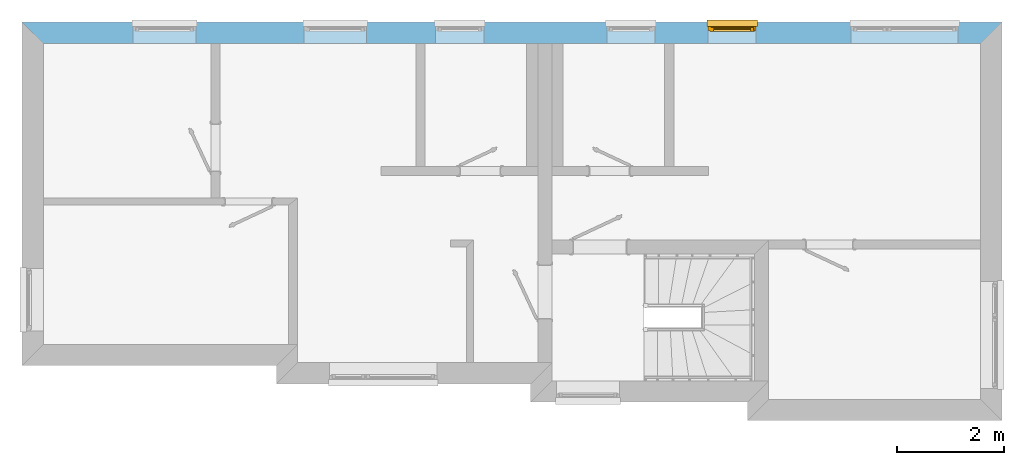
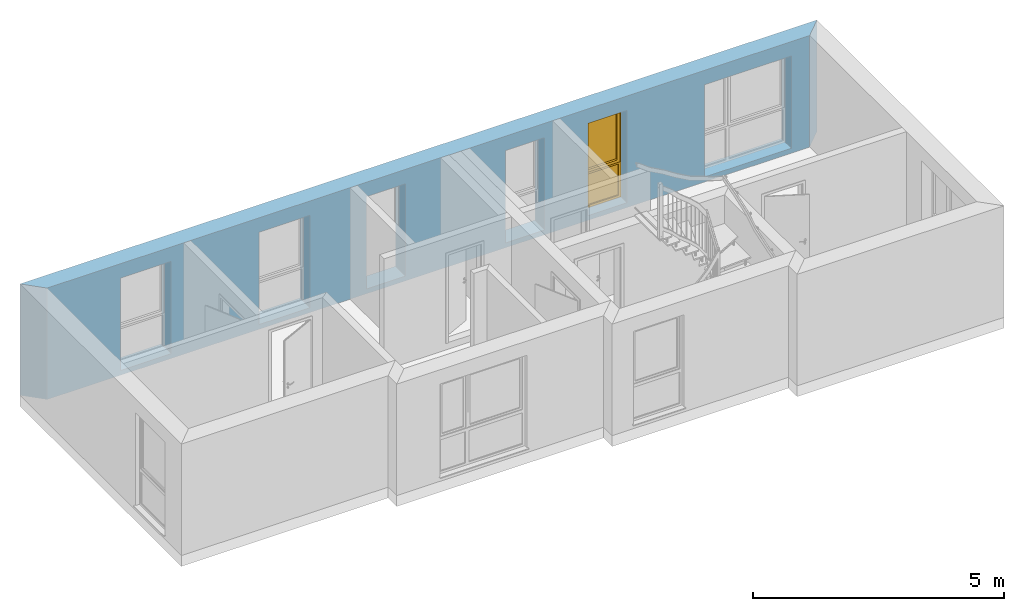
# One storey, part 12 of 16: 1 window, 6 openings, plus 1 element that does not belong to this part.
"""IFC2X3 building model written with IfcOpenShell, lengths in millimetres."""

from ifc_helpers import new_model, si_unit, frame, origin_with_axes, place, context, project, spatial, faceted_brep, material, layer, layer_set, layer_usage, type_object, element, fill, save


model = new_model("IFC2X3")

# Units and contexts
model_context = context("Model", 3, world=origin_with_axes())
ifc_project = project(units=[si_unit("LENGTHUNIT", "METRE", prefix="MILLI")], contexts=[model_context])

# Site, building, storey
site_placement = place(None, origin_with_axes())
site = spatial("IfcSite", under=ifc_project, at=site_placement, Name="Site", CompositionType="ELEMENT")
building_placement = place(site_placement, origin_with_axes())
building = spatial("IfcBuilding", under=site, at=building_placement, Name="?", CompositionType="ELEMENT")
storey_placement = place(building_placement, frame((0.0, 0.0, 2969.0), z_axis=(0.0, 0.0, 1.0), x_axis=(1.0, 0.0, 0.0)))
storey = spatial("IfcBuildingStorey", under=building, at=storey_placement, Name="Obergeschoß 1", CompositionType="ELEMENT", Elevation=2969.0)

# Wall, openings, window
ifc_material = material(Name="Material_AW")
ifc_layer = layer(ifc_material, 395.0, ventilated=False)
ifc_layer_set = layer_set([ifc_layer], Name="MaterialLayerSet_AW")
ifc_layer_usage = layer_usage(ifc_layer_set, "AXIS2", "NEGATIVE", 197.5)
wall_placement = place(storey_placement, frame((197.5, -197.5, 0.0), z_axis=(0.0, 0.0, 1.0), x_axis=(1.0, 0.0, 0.0)))
wall = element("IfcWall", 1, at=wall_placement, inside=storey, material=ifc_layer_usage, Name="AW-11", context=model_context, shape_type="Brep", body=[
    faceted_brep([(17707.5008600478, -197.5, 0.0), (17707.5008600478, -197.5, 2707.0), (197.5, -197.5, 2707.0), (197.5, -197.5, 0.0), (18102.5001275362, 197.499999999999, 0.0), (18102.5001275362, 197.499999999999, 2707.0), (17707.5008600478, -197.500000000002, 2707.0), (17707.5008600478, -197.500000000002, 0.0), (-197.500233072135, 197.5, 0.0), (-197.500233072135, 197.5, 2707.0), (18102.5001275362, 197.5, 2707.0), (18102.5001275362, 197.5, 0.0), (197.5, -197.5, 0.0), (197.5, -197.5, 2707.0), (-197.500233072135, 197.5, 2707.0), (-197.500233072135, 197.5, 0.0), (197.5, -197.5, 0.0), (-197.500233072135, 197.5, 0.0), (18102.5001275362, 197.5, 0.0), (17707.5008600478, -197.5, 0.0), (-197.500233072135, 197.5, 2707.0), (197.5, -197.5, 2707.0), (17707.5008600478, -197.5, 2707.0), (18102.5001275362, 197.5, 2707.0)], [[[0, 1, 2, 3]], [[4, 5, 6, 7]], [[8, 9, 10, 11]], [[12, 13, 14, 15]], [[16, 17, 18, 19]], [[20, 21, 22, 23]]]),
])
opening_1_placement = place(wall_placement, frame((5067.5, 0.0, 116.0), z_axis=(0.0, 0.0, 1.0), x_axis=(1.0, 0.0, 0.0)))
element("IfcOpeningElement", 2, at=opening_1_placement, cuts=wall, Name="AW-11|FE11", context=model_context, shape_type="Brep", body=[
    faceted_brep([(0.0, 207.5, 0.0), (0.0, 207.5, 2244.0), (1170.0, 207.5, 2244.0), (1170.0, 207.5, 0.0), (0.0, -207.5, 0.0), (0.0, -207.5, 2244.0), (0.0, 207.5, 2244.0), (0.0, 207.5, 0.0), (1170.0, -207.5, 0.0), (0.0, -207.5, 0.0), (0.0, 207.5, 0.0), (1170.0, 207.5, 0.0), (1170.0, -207.5, 2244.0), (1170.0, -207.5, 0.0), (1170.0, 207.5, 0.0), (1170.0, 207.5, 2244.0), (0.0, -207.5, 2244.0), (1170.0, -207.5, 2244.0), (1170.0, 207.5, 2244.0), (0.0, 207.5, 2244.0), (0.0, -207.5, 0.0), (1170.0, -207.5, 0.0), (1170.0, -207.5, 2244.0), (0.0, -207.5, 2244.0)], [[[0, 1, 2, 3]], [[4, 5, 6, 7]], [[8, 9, 10, 11]], [[12, 13, 14, 15]], [[16, 17, 18, 19]], [[20, 21, 22, 23]]]),
])
opening_2_placement = place(wall_placement, frame((10723.5, 0.0, 116.0), z_axis=(0.0, 0.0, 1.0), x_axis=(1.0, 0.0, 0.0)))
element("IfcOpeningElement", 3, at=opening_2_placement, cuts=wall, Name="AW-11|FE13", context=model_context, shape_type="Brep", body=[
    faceted_brep([(0.0, 207.5, 0.0), (0.0, 207.5, 2244.0), (900.0, 207.5, 2244.0), (900.0, 207.5, 0.0), (0.0, -207.5, 0.0), (0.0, -207.5, 2244.0), (0.0, 207.5, 2244.0), (0.0, 207.5, 0.0), (900.0, -207.5, 0.0), (0.0, -207.5, 0.0), (0.0, 207.5, 0.0), (900.0, 207.5, 0.0), (900.0, -207.5, 2244.0), (900.0, -207.5, 0.0), (900.0, 207.5, 0.0), (900.0, 207.5, 2244.0), (0.0, -207.5, 2244.0), (900.0, -207.5, 2244.0), (900.0, 207.5, 2244.0), (0.0, 207.5, 2244.0), (0.0, -207.5, 0.0), (900.0, -207.5, 0.0), (900.0, -207.5, 2244.0), (0.0, -207.5, 2244.0)], [[[0, 1, 2, 3]], [[4, 5, 6, 7]], [[8, 9, 10, 11]], [[12, 13, 14, 15]], [[16, 17, 18, 19]], [[20, 21, 22, 23]]]),
])
opening_3_placement = place(wall_placement, frame((12613.5, 0.0, 116.0), z_axis=(0.0, 0.0, 1.0), x_axis=(1.0, 0.0, 0.0)))
opening_3 = element("IfcOpeningElement", 4, at=opening_3_placement, cuts=wall, Name="AW-11|FE14", context=model_context, shape_type="Brep", body=[
    faceted_brep([(0.0, 207.5, 0.0), (0.0, 207.5, 2244.0), (900.0, 207.5, 2244.0), (900.0, 207.5, 0.0), (0.0, -207.5, 0.0), (0.0, -207.5, 2244.0), (0.0, 207.5, 2244.0), (0.0, 207.5, 0.0), (900.0, -207.5, 0.0), (0.0, -207.5, 0.0), (0.0, 207.5, 0.0), (900.0, 207.5, 0.0), (900.0, -207.5, 2244.0), (900.0, -207.5, 0.0), (900.0, 207.5, 0.0), (900.0, 207.5, 2244.0), (0.0, -207.5, 2244.0), (900.0, -207.5, 2244.0), (900.0, 207.5, 2244.0), (0.0, 207.5, 2244.0), (0.0, -207.5, 0.0), (900.0, -207.5, 0.0), (900.0, -207.5, 2244.0), (0.0, -207.5, 2244.0)], [[[0, 1, 2, 3]], [[4, 5, 6, 7]], [[8, 9, 10, 11]], [[12, 13, 14, 15]], [[16, 17, 18, 19]], [[20, 21, 22, 23]]]),
])
opening_4_placement = place(wall_placement, frame((15287.5, 0.0, 116.0), z_axis=(0.0, 0.0, 1.0), x_axis=(1.0, 0.0, 0.0)))
element("IfcOpeningElement", 5, at=opening_4_placement, cuts=wall, Name="AW-11|FE15", context=model_context, shape_type="Brep", body=[
    faceted_brep([(0.0, 207.5, 0.0), (0.0, 207.5, 2244.0), (2000.0, 207.5, 2244.0), (2000.0, 207.5, 0.0), (0.0, -207.5, 0.0), (0.0, -207.5, 2244.0), (0.0, 207.5, 2244.0), (0.0, 207.5, 0.0), (2000.0, -207.5, 0.0), (0.0, -207.5, 0.0), (0.0, 207.5, 0.0), (2000.0, 207.5, 0.0), (2000.0, -207.5, 2244.0), (2000.0, -207.5, 0.0), (2000.0, 207.5, 0.0), (2000.0, 207.5, 2244.0), (0.0, -207.5, 2244.0), (2000.0, -207.5, 2244.0), (2000.0, 207.5, 2244.0), (0.0, 207.5, 2244.0), (0.0, -207.5, 0.0), (2000.0, -207.5, 0.0), (2000.0, -207.5, 2244.0), (0.0, -207.5, 2244.0)], [[[0, 1, 2, 3]], [[4, 5, 6, 7]], [[8, 9, 10, 11]], [[12, 13, 14, 15]], [[16, 17, 18, 19]], [[20, 21, 22, 23]]]),
])
opening_5_placement = place(wall_placement, frame((7527.5, 0.0, 116.0), z_axis=(0.0, 0.0, 1.0), x_axis=(1.0, 0.0, 0.0)))
element("IfcOpeningElement", 6, at=opening_5_placement, cuts=wall, Name="AW-11|FE12", context=model_context, shape_type="Brep", body=[
    faceted_brep([(0.0, 207.5, 0.0), (0.0, 207.5, 2244.0), (900.0, 207.5, 2244.0), (900.0, 207.5, 0.0), (0.0, -207.5, 0.0), (0.0, -207.5, 2244.0), (0.0, 207.5, 2244.0), (0.0, 207.5, 0.0), (900.0, -207.5, 0.0), (0.0, -207.5, 0.0), (0.0, 207.5, 0.0), (900.0, 207.5, 0.0), (900.0, -207.5, 2244.0), (900.0, -207.5, 0.0), (900.0, 207.5, 0.0), (900.0, 207.5, 2244.0), (0.0, -207.5, 2244.0), (900.0, -207.5, 2244.0), (900.0, 207.5, 2244.0), (0.0, 207.5, 2244.0), (0.0, -207.5, 0.0), (900.0, -207.5, 0.0), (900.0, -207.5, 2244.0), (0.0, -207.5, 2244.0)], [[[0, 1, 2, 3]], [[4, 5, 6, 7]], [[8, 9, 10, 11]], [[12, 13, 14, 15]], [[16, 17, 18, 19]], [[20, 21, 22, 23]]]),
])
opening_6_placement = place(wall_placement, frame((1877.5, 0.0, 116.0), z_axis=(0.0, 0.0, 1.0), x_axis=(1.0, 0.0, 0.0)))
element("IfcOpeningElement", 7, at=opening_6_placement, cuts=wall, Name="AW-11|FE10", context=model_context, shape_type="Brep", body=[
    faceted_brep([(0.0, 207.5, 0.0), (0.0, 207.5, 2244.0), (1170.0, 207.5, 2244.0), (1170.0, 207.5, 0.0), (0.0, -207.5, 0.0), (0.0, -207.5, 2244.0), (0.0, 207.5, 2244.0), (0.0, 207.5, 0.0), (1170.0, -207.5, 0.0), (0.0, -207.5, 0.0), (0.0, 207.5, 0.0), (1170.0, 207.5, 0.0), (1170.0, -207.5, 2244.0), (1170.0, -207.5, 0.0), (1170.0, 207.5, 0.0), (1170.0, 207.5, 2244.0), (0.0, -207.5, 2244.0), (1170.0, -207.5, 2244.0), (1170.0, 207.5, 2244.0), (0.0, 207.5, 2244.0), (0.0, -207.5, 0.0), (1170.0, -207.5, 0.0), (1170.0, -207.5, 2244.0), (0.0, -207.5, 2244.0)], [[[0, 1, 2, 3]], [[4, 5, 6, 7]], [[8, 9, 10, 11]], [[12, 13, 14, 15]], [[16, 17, 18, 19]], [[20, 21, 22, 23]]]),
])
window_style = type_object("IfcWindowStyle", Name="FE14", ConstructionType="NOTDEFINED", OperationType="DOUBLE_PANEL_HORIZONTAL", ParameterTakesPrecedence=True, Sizeable=False)
window_placement = place(opening_3_placement, frame((900.0, 77.5, 0.0), z_axis=(0.0, 0.0, 1.0), x_axis=(-1.0, 0.0, 0.0)))
window = element("IfcWindow", 8, at=window_placement, inside=storey, type_object=window_style, Name="FE14", OverallHeight=2244.0, OverallWidth=900.0, context=model_context, shape_type="Brep", body=[
    faceted_brep([(0.0, -36.0, 0.0), (900.0, -36.0, 0.0), (885.0, -36.0, 15.0), (15.0, -36.0, 15.0), (15.0, 36.0, 15.0), (885.0, 36.0, 15.0), (900.0, 36.0, 0.0), (0.0, 36.0, 0.0), (0.0, 36.0, 0.0), (900.0, 36.0, 0.0), (900.0, -36.0, 0.0), (0.0, -36.0, 0.0), (900.0, -36.0, 0.0), (900.0, -36.0, 2244.0), (885.0, -36.0, 2229.0), (885.0, -36.0, 15.0), (885.0, 36.0, 15.00048828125), (885.0, 36.0, 2229.00048828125), (900.0, 36.0, 2244.00048828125), (900.0, 36.0, 0.00048828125), (900.0, 36.0, 0.0), (900.0, 36.0, 2244.0), (900.0, -36.0, 2244.0), (900.0, -36.0, 0.0), (900.0, -36.0, 2244.0), (0.0, -36.0, 2244.0), (15.0, -36.0, 2229.0), (885.0, -36.0, 2229.0), (885.0, 36.0, 2229.0), (15.0, 36.0, 2229.0), (0.0, 36.0, 2244.0), (900.0, 36.0, 2244.0), (900.0, 36.0, 2244.0), (0.0, 36.0, 2244.0), (0.0, -36.0, 2244.0), (900.0, -36.0, 2244.0), (0.0, -36.0, 2244.0), (0.0, -36.0, 0.0), (15.0, -36.0, 15.0), (15.0, -36.0, 2229.0), (15.0, 36.0, 2229.0), (15.0, 36.0, 15.0), (0.0, 36.0, 0.0), (0.0, 36.0, 2244.0), (0.0, 36.0, 2244.0), (0.0, 36.0, 0.0), (0.0, -36.0, 0.0), (0.0, -36.0, 2244.0), (885.0, 36.0, 855.0), (847.0, 36.0, 817.0), (53.0, 36.0, 817.0), (15.0, 36.0, 855.0), (43.0, 36.0, 883.0), (857.0, 36.0, 883.0), (857.0, 36.0, 883.0), (43.0, 36.0, 883.0), (43.0, -21.0, 883.0), (857.0, -21.0, 883.0), (857.0, -21.0, 883.0), (43.0, -21.0, 883.0), (60.0, -21.0, 900.0), (840.0, -21.0, 900.0), (840.0, -21.0, 900.0), (60.0, -21.0, 900.0), (60.0, -25.0, 900.0), (840.0, -25.0, 900.0), (839.999999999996, -25.0, 900.0), (59.9999999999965, -25.0, 900.0), (52.9999999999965, -36.0014645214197, 892.999267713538), (846.999999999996, -36.0014645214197, 892.999267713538), (847.0, -36.0, 893.0), (53.0, -36.0, 893.0), (15.0, -36.0, 855.0), (53.0, -36.0, 817.0), (847.0, -36.0, 817.0), (885.0, -36.0, 855.0), (53.0000000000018, 36.0, 817.0), (847.000000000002, 36.0, 817.0), (840.000000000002, 24.9985352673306, 809.999023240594), (60.0000000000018, 24.9985352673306, 809.999023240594), (60.0, 25.0, 810.0), (840.0, 25.0, 810.0), (840.0, 12.0, 810.0), (60.0, 12.0, 810.0), (60.0, -12.0, 810.0), (840.0, -12.0, 810.0), (840.0, -25.0, 810.0), (60.0, -25.0, 810.0), (60.0, 12.0, 810.0), (840.0, 12.0, 810.0), (857.0, 12.0, 827.0), (43.0, 12.0, 827.0), (43.0, 12.0, 827.0), (857.0, 12.0, 827.0), (857.0, -12.0, 827.0), (43.0, -12.0, 827.0), (43.0, -12.0, 827.0), (857.0, -12.0, 827.0), (840.0, -12.0, 810.0), (60.0, -12.0, 810.0), (60.0, -25.0, 810.0), (840.0, -25.0, 810.0), (847.0, -36.0014647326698, 817.000976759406), (53.0, -36.0014647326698, 817.000976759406), (885.0, 36.0, 2229.0), (885.0, 36.0, 855.0), (857.0, 36.0, 883.0), (857.0, 36.0, 2201.0), (857.0, 36.0, 2201.0), (857.0, 36.0, 883.0), (857.0, -21.0, 883.0), (857.0, -21.0, 2201.0), (857.0, -21.0, 2201.0), (857.0, -21.0, 883.0), (840.0, -21.0, 900.0), (840.0, -21.0, 2184.0), (840.0, -21.0, 2184.00048828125), (840.0, -21.0, 900.00048828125), (840.0, -25.0, 900.00048828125), (840.0, -25.0, 2184.00048828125), (840.0, -25.0, 2184.00048828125), (840.0, -25.0, 900.00048828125), (847.000976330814, -36.0009765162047, 893.00048828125), (847.000976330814, -36.0009765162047, 2191.00048828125), (847.0, -36.0, 2191.0), (847.0, -36.0, 893.0), (885.0, -36.0, 855.0), (885.0, -36.0, 2229.0), (15.0, 36.0, 2229.0), (885.0, 36.0, 2229.0), (857.0, 36.0, 2201.0), (43.0, 36.0, 2201.0), (43.0, 36.0, 2201.0), (857.0, 36.0, 2201.0), (857.0, -21.0, 2201.0), (43.0, -21.0, 2201.0), (43.0, -21.0, 2201.0), (857.0, -21.0, 2201.0), (840.0, -21.0, 2184.0), (60.0, -21.0, 2184.0), (60.0, -21.0, 2184.0), (840.0, -21.0, 2184.0), (840.0, -25.0, 2184.0), (60.0, -25.0, 2184.0), (60.0000000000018, -25.0, 2184.0), (840.000000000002, -25.0, 2184.0), (847.000000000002, -36.001464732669, 2191.00097675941), (53.0000000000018, -36.001464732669, 2191.00097675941), (53.0, -36.0, 2191.0), (847.0, -36.0, 2191.0), (885.0, -36.0, 2229.0), (15.0, -36.0, 2229.0), (15.0, 36.0, 855.0), (15.0, 36.0, 2229.0), (43.0, 36.0, 2201.0), (43.0, 36.0, 883.0), (43.0, 36.0, 882.999755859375), (43.0, 36.0, 2201.0), (43.0009765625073, -21.0000000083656, 2201.0), (43.0009765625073, -21.0000000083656, 882.999755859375), (43.0, -21.0, 882.999755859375), (43.0, -21.0, 2201.0), (60.0, -21.0, 2184.0), (60.0, -21.0, 899.999755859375), (60.0, -21.0, 900.000732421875), (60.0, -21.0, 2184.0009765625), (60.0, -25.0, 2184.0009765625), (60.0, -25.0, 900.000732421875), (60.0, -25.0, 900.000732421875), (60.0, -25.0, 2184.0009765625), (52.9990232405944, -36.0014647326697, 2191.0009765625), (52.9990232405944, -36.0014647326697, 893.000732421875), (53.0, -36.0, 893.0), (53.0, -36.0, 2191.0), (15.0, -36.0, 2229.0), (15.0, -36.0, 855.0), (885.0, 36.0, 15.0), (15.0, 36.0, 15.0), (53.0, 36.0, 53.0), (847.0, 36.0, 53.0), (847.0, 36.0, 53.0), (53.0, 36.0, 53.0), (60.0, 24.9985354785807, 60.0007322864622), (840.0, 24.9985354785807, 60.0007322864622), (840.0, 25.0, 60.0), (60.0, 25.0, 60.0), (60.0, 12.0, 60.0), (840.0, 12.0, 60.0), (840.0, -12.0, 60.0), (60.0, -12.0, 60.0), (60.0, -25.0, 60.0), (840.0, -25.0, 60.0), (840.0, 12.0, 60.0), (60.0, 12.0, 60.0), (43.0, 12.0, 43.0), (857.0, 12.0, 43.0), (857.0, 12.0, 43.0), (43.0, 12.0, 43.0), (43.0, -12.0, 43.0), (857.0, -12.0, 43.0), (857.0, -12.0, 43.0), (43.0, -12.0, 43.0), (60.0, -12.0, 60.0), (840.0, -12.0, 60.0), (840.0, -25.0, 60.0), (60.0, -25.0, 60.0), (53.0, -36.0014645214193, 52.9992677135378), (847.0, -36.0014645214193, 52.9992677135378), (847.0, -36.0, 53.0), (53.0, -36.0, 53.0), (15.0, -36.0, 15.0), (885.0, -36.0, 15.0), (885.0, 36.0, 855.0), (885.0, 36.0, 15.0), (847.0, 36.0, 53.0), (847.0, 36.0, 817.0), (847.0, 36.0, 817.001220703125), (847.0, 36.0, 53.001220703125), (839.999023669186, 24.9990234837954, 60.001220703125), (839.999023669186, 24.9990234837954, 810.001220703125), (840.0, 25.0, 810.000732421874), (840.0, 25.0, 60.0007324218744), (839.99902343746, 11.9999999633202, 60.0007324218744), (839.99902343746, 11.9999999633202, 810.000732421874), (839.998046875, -12.0, 810.000732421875), (839.998046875, -12.0, 60.000732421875), (839.998046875, -25.0, 60.000732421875), (839.998046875, -25.0, 810.000732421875), (840.0, 12.0, 810.000732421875), (840.0, 12.0, 60.000732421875), (857.0, 12.0, 43.000732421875), (857.0, 12.0, 827.000732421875), (857.0, 12.0, 827.000244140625), (857.0, 12.0, 43.000244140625), (857.0, -12.0, 43.000244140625), (857.0, -12.0, 827.000244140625), (857.0, -12.0, 827.000244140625), (857.0, -12.0, 43.000244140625), (840.0, -12.0, 60.000244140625), (840.0, -12.0, 810.000244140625), (840.0, -25.0, 810.000732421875), (840.0, -25.0, 60.0007324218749), (846.999999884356, -36.0017091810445, 53.0007324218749), (846.999999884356, -36.0017091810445, 817.000732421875), (847.0, -36.0, 817.001220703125), (847.0, -36.0, 53.001220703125), (885.0, -36.0, 15.001220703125), (885.0, -36.0, 855.001220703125), (15.0, 36.0, 15.0), (15.0, 36.0, 855.0), (53.0, 36.0, 817.0), (53.0, 36.0, 53.0), (53.0, 36.0, 53.0), (53.0, 36.0, 817.0), (60.000000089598, 24.9980470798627, 810.0), (60.000000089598, 24.9980470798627, 60.0), (60.0, 25.0, 60.000732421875), (60.0, 25.0, 810.000732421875), (60.0, 12.0, 810.000732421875), (60.0, 12.0, 60.000732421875), (60.0, -12.0, 60.000732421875), (60.0, -12.0, 810.000732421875), (60.0, -25.0, 810.000732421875), (60.0, -25.0, 60.000732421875), (60.0, 12.0, 60.000732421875), (60.0, 12.0, 810.000732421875), (43.0, 12.0, 827.000732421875), (43.0, 12.0, 43.000732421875), (43.0, 12.0, 42.999755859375), (43.0, 12.0, 826.999755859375), (43.0, -12.0, 826.999755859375), (43.0, -12.0, 42.999755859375), (43.0, -12.0, 42.999755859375), (43.0, -12.0, 826.999755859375), (60.0, -12.0, 809.999755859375), (60.0, -12.0, 59.999755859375), (60.0, -25.0, 60.0007324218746), (60.0, -25.0, 810.000732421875), (52.999999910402, -36.0019529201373, 817.000732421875), (52.999999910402, -36.0019529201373, 53.0007324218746), (53.0, -36.0, 53.0), (53.0, -36.0, 817.0), (15.0, -36.0, 855.0), (15.0, -36.0, 15.0), (867.0, 52.0, 873.0), (33.0, 52.0, 873.0), (96.0, 52.0, 936.0), (804.0, 52.0, 936.0), (803.999999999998, 52.0, 936.0), (95.9999999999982, 52.0, 936.0), (109.999999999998, 19.9985360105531, 950.00048798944), (789.999999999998, 19.9985360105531, 950.00048798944), (790.0, 20.0, 950.0), (110.0, 20.0, 950.0), (103.0, 20.0, 943.0), (797.0, 20.0, 943.0), (797.0, 20.0, 943.0), (103.0, 20.0, 943.0), (103.0, -4.0, 943.0), (797.0, -4.0, 943.0), (797.0, -4.0, 943.0), (103.0, -4.0, 943.0), (110.0, -4.0, 950.0), (790.0, -4.0, 950.0), (789.999999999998, -4.0, 950.0), (109.999999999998, -4.0, 950.0), (101.999999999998, -21.0014648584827, 941.999267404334), (797.999999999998, -21.0014648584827, 941.999267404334), (798.0, -21.0, 942.0), (102.0, -21.0, 942.0), (51.0, -21.0, 891.0), (849.0, -21.0, 891.0), (849.0, -21.0, 891.0), (51.0, -21.0, 891.0), (51.0, 36.0, 891.0), (849.0, 36.0, 891.0), (849.0, 36.0, 891.0), (51.0, 36.0, 891.0), (33.0, 36.0, 873.0), (867.0, 36.0, 873.0), (867.0, 36.0, 873.0), (33.0, 36.0, 873.0), (33.0, 52.0, 873.0), (867.0, 52.0, 873.0), (867.0, 52.0, 2211.00048828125), (867.0, 52.0, 873.00048828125), (804.0, 52.0, 936.00048828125), (804.0, 52.0, 2148.00048828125), (804.0, 52.0, 2148.0), (804.0, 52.0, 935.999999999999), (789.999023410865, 19.9985357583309, 949.999999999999), (789.999023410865, 19.9985357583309, 2134.0), (790.0, 20.0, 2134.00048828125), (790.0, 20.0, 950.00048828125), (797.0, 20.0, 943.00048828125), (797.0, 20.0, 2141.00048828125), (797.0, 20.0, 2141.0009765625), (797.0, 20.0, 943.0009765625), (797.0, -4.0, 943.0009765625), (797.0, -4.0, 2141.0009765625), (797.0, -4.0, 2141.0009765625), (797.0, -4.0, 943.0009765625), (790.0, -4.0, 950.0009765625), (790.0, -4.0, 2134.0009765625), (790.0, -4.0, 2134.00048828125), (790.0, -4.0, 950.00048828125), (798.000000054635, -21.001708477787, 942.00048828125), (798.000000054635, -21.001708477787, 2142.00048828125), (798.0, -21.0, 2142.0009765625), (798.0, -21.0, 942.0009765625), (849.0, -21.0, 891.0009765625), (849.0, -21.0, 2193.0009765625), (849.0, -21.0, 2193.0009765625), (849.0, -21.0, 891.0009765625), (849.0, 36.0, 891.0009765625), (849.0, 36.0, 2193.0009765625), (849.0, 36.0, 2193.0009765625), (849.0, 36.0, 891.0009765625), (867.0, 36.0, 873.0009765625), (867.0, 36.0, 2211.0009765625), (867.0, 36.0, 2211.00048828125), (867.0, 36.0, 873.00048828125), (867.0, 52.0, 873.00048828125), (867.0, 52.0, 2211.00048828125), (33.0, 52.0, 2211.0), (867.0, 52.0, 2211.0), (804.0, 52.0, 2148.0), (96.0, 52.0, 2148.0), (96.0009765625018, 52.0, 2148.0), (804.000976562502, 52.0, 2148.0), (790.000976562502, 19.9985360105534, 2133.99951201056), (110.000976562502, 19.9985360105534, 2133.99951201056), (110.0, 20.0, 2134.0), (790.0, 20.0, 2134.0), (797.0, 20.0, 2141.0), (103.0, 20.0, 2141.0), (103.0, 20.0, 2141.0), (797.0, 20.0, 2141.0), (797.0, -4.0, 2141.0), (103.0, -4.0, 2141.0), (103.0, -4.0, 2141.0), (797.0, -4.0, 2141.0), (790.0, -4.0, 2134.0), (110.0, -4.0, 2134.0), (110.0, -4.0, 2134.0), (790.0, -4.0, 2134.0), (798.0, -21.0014648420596, 2142.00097677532), (102.0, -21.0014648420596, 2142.00097677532), (102.0009765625, -21.0, 2142.0), (798.0009765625, -21.0, 2142.0), (849.0009765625, -21.0, 2193.0), (51.0009765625, -21.0, 2193.0), (51.0009765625, -21.0, 2193.0), (849.0009765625, -21.0, 2193.0), (849.0009765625, 36.0, 2193.0), (51.0009765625, 36.0, 2193.0), (51.0009765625, 36.0, 2193.0), (849.0009765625, 36.0, 2193.0), (867.0009765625, 36.0, 2211.0), (33.0009765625, 36.0, 2211.0), (33.0, 36.0, 2211.0), (867.0, 36.0, 2211.0), (867.0, 52.0, 2211.0), (33.0, 52.0, 2211.0), (33.0, 52.0, 872.999755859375), (33.0, 52.0, 2211.0), (96.0, 52.0, 2148.0), (96.0, 52.0, 935.999755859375), (96.0, 52.0, 935.999755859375), (96.0, 52.0, 2148.0), (110.000976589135, 19.9985357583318, 2134.0), (110.000976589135, 19.9985357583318, 949.999755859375), (110.0, 20.0, 949.999755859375), (110.0, 20.0, 2134.0), (103.0, 20.0, 2141.0), (103.0, 20.0, 942.999755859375), (103.0, 20.0, 943.00048828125), (103.0, 20.0, 2141.00048828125), (103.0, -4.0, 2141.00048828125), (103.0, -4.0, 943.00048828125), (103.0, -4.0, 943.00048828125), (103.0, -4.0, 2141.00048828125), (110.0, -4.0, 2134.00048828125), (110.0, -4.0, 950.00048828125), (110.0, -4.00000000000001, 949.999755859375), (110.0, -4.00000000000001, 2134.0), (101.999023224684, -21.0014648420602, 2142.0), (101.999023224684, -21.0014648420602, 941.999755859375), (102.0, -21.0, 942.00048828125), (102.0, -21.0, 2142.00048828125), (51.0, -21.0, 2193.00048828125), (51.0, -21.0, 891.00048828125), (51.0, -21.0, 891.00048828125), (51.0, -21.0, 2193.00048828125), (51.0009765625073, 36.0000000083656, 2193.00048828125), (51.0009765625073, 36.0000000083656, 891.00048828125), (51.0, 36.0, 891.00048828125), (51.0, 36.0, 2193.00048828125), (33.0, 36.0, 2211.00048828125), (33.0, 36.0, 873.00048828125), (33.0, 36.0, 872.999755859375), (33.0, 36.0, 2211.0), (33.0, 52.0, 2211.0), (33.0, 52.0, 872.999755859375), (110.0, 20.0, 950.0), (110.0, 20.0, 2134.0), (790.0, 20.0, 2134.0), (790.0, 20.0, 950.0), (110.0, -4.0, 950.0), (790.0, -4.0, 950.0), (790.0, -4.0, 2134.0), (110.0, -4.0, 2134.0), (60.0, 12.0, 60.0), (60.0, 12.0, 810.0), (840.0, 12.0, 810.0), (840.0, 12.0, 60.0), (60.0, -12.0, 60.0), (840.0, -12.0, 60.0), (840.0, -12.0, 810.0), (60.0, -12.0, 810.0), (-20.0, -36.0, 0.5), (-20.0, -160.0, 0.5), (920.0, -160.0, 0.5), (920.0, -36.0, 0.5), (-20.0, -36.0, -19.5), (-20.0, -36.0, 0.5), (920.0, -36.0, 0.5), (920.0, -36.0, -19.5), (-20.0, -160.0, -19.5), (-20.0, -36.0, -19.5), (920.0, -36.0, -19.5), (920.0, -160.0, -19.5), (-20.0, -160.0, 0.5), (-20.0, -160.0, -19.5), (920.0, -160.0, -19.5), (920.0, -160.0, 0.5), (-20.0, -160.0, -19.5), (-20.0, -160.0, 0.5), (-20.0, -36.0, 0.5), (-20.0, -36.0, -19.5), (920.0, -160.0, 0.5), (920.0, -160.0, -19.5), (920.0, -36.0, -19.5), (920.0, -36.0, 0.5)], [[[0, 1, 2, 3]], [[4, 5, 6, 7]], [[8, 9, 10, 11]], [[12, 13, 14, 15]], [[16, 17, 18, 19]], [[20, 21, 22, 23]], [[24, 25, 26, 27]], [[28, 29, 30, 31]], [[32, 33, 34, 35]], [[36, 37, 38, 39]], [[40, 41, 42, 43]], [[44, 45, 46, 47]], [[48, 49, 50, 51, 52, 53]], [[54, 55, 56, 57]], [[58, 59, 60, 61]], [[62, 63, 64, 65]], [[66, 67, 68, 69]], [[70, 71, 72, 73, 74, 75]], [[76, 77, 78, 79]], [[80, 81, 82, 83]], [[84, 85, 86, 87]], [[88, 89, 90, 91]], [[92, 93, 94, 95]], [[96, 97, 98, 99]], [[100, 101, 102, 103]], [[104, 105, 106, 107]], [[108, 109, 110, 111]], [[112, 113, 114, 115]], [[116, 117, 118, 119]], [[120, 121, 122, 123]], [[124, 125, 126, 127]], [[128, 129, 130, 131]], [[132, 133, 134, 135]], [[136, 137, 138, 139]], [[140, 141, 142, 143]], [[144, 145, 146, 147]], [[148, 149, 150, 151]], [[152, 153, 154, 155]], [[156, 157, 158, 159]], [[160, 161, 162, 163]], [[164, 165, 166, 167]], [[168, 169, 170, 171]], [[172, 173, 174, 175]], [[176, 177, 178, 179]], [[180, 181, 182, 183]], [[184, 185, 186, 187]], [[188, 189, 190, 191]], [[192, 193, 194, 195]], [[196, 197, 198, 199]], [[200, 201, 202, 203]], [[204, 205, 206, 207]], [[208, 209, 210, 211]], [[212, 213, 214, 215]], [[216, 217, 218, 219]], [[220, 221, 222, 223]], [[224, 225, 226, 227]], [[228, 229, 230, 231]], [[232, 233, 234, 235]], [[236, 237, 238, 239]], [[240, 241, 242, 243]], [[244, 245, 246, 247]], [[248, 249, 250, 251]], [[252, 253, 254, 255]], [[256, 257, 258, 259]], [[260, 261, 262, 263]], [[264, 265, 266, 267]], [[268, 269, 270, 271]], [[272, 273, 274, 275]], [[276, 277, 278, 279]], [[280, 281, 282, 283]], [[284, 285, 286, 287]], [[288, 289, 290, 291]], [[292, 293, 294, 295]], [[296, 297, 298, 299]], [[300, 301, 302, 303]], [[304, 305, 306, 307]], [[308, 309, 310, 311]], [[312, 313, 314, 315]], [[316, 317, 318, 319]], [[320, 321, 322, 323]], [[324, 325, 326, 327]], [[328, 329, 330, 331]], [[332, 333, 334, 335]], [[336, 337, 338, 339]], [[340, 341, 342, 343]], [[344, 345, 346, 347]], [[348, 349, 350, 351]], [[352, 353, 354, 355]], [[356, 357, 358, 359]], [[360, 361, 362, 363]], [[364, 365, 366, 367]], [[368, 369, 370, 371]], [[372, 373, 374, 375]], [[376, 377, 378, 379]], [[380, 381, 382, 383]], [[384, 385, 386, 387]], [[388, 389, 390, 391]], [[392, 393, 394, 395]], [[396, 397, 398, 399]], [[400, 401, 402, 403]], [[404, 405, 406, 407]], [[408, 409, 410, 411]], [[412, 413, 414, 415]], [[416, 417, 418, 419]], [[420, 421, 422, 423]], [[424, 425, 426, 427]], [[428, 429, 430, 431]], [[432, 433, 434, 435]], [[436, 437, 438, 439]], [[440, 441, 442, 443]], [[444, 445, 446, 447]], [[448, 449, 450, 451]], [[452, 453, 454, 455]], [[456, 457, 458, 459]], [[460, 461, 462, 463]], [[464, 465, 466, 467]], [[468, 469, 470, 471]], [[472, 473, 474, 475]], [[476, 477, 478, 479]], [[480, 481, 482, 483]]]),
])
fill(opening_3, window)

save(model, "model.ifc")
